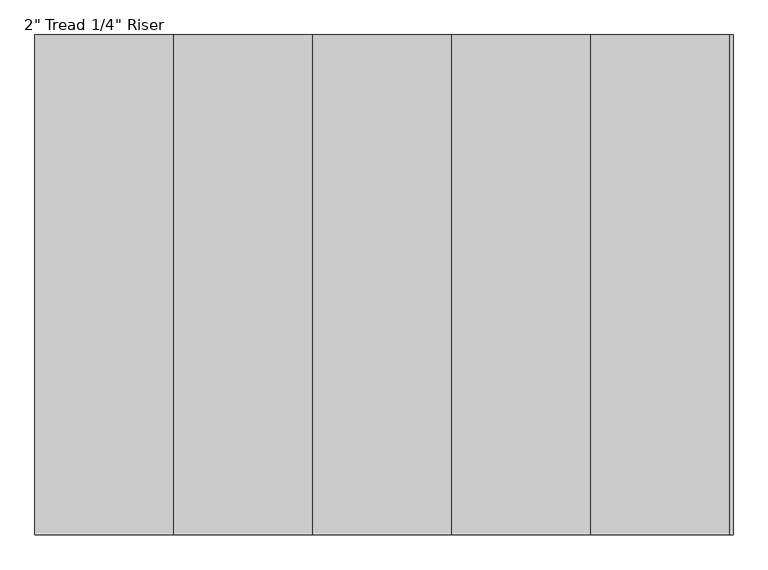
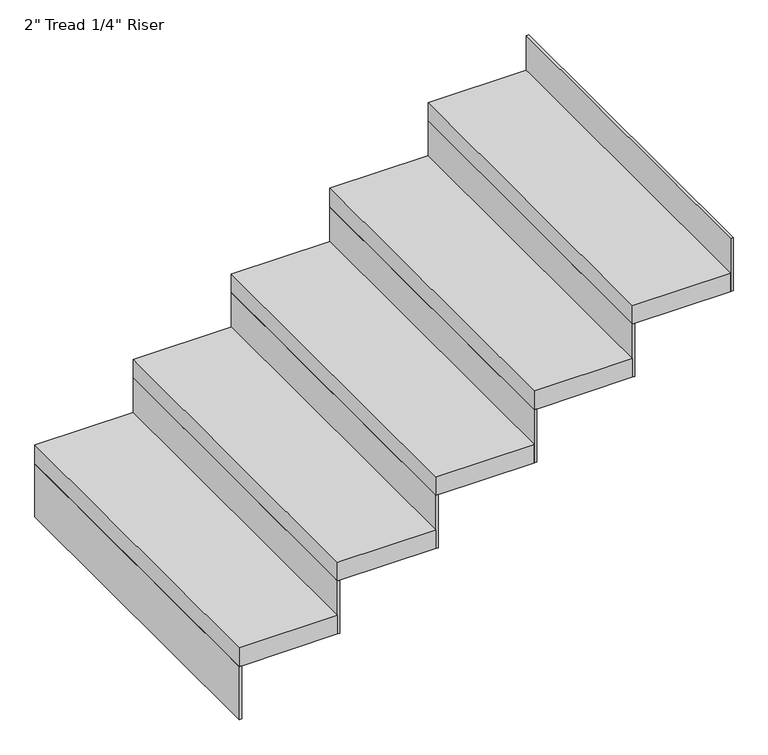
"""IFC4 building model written with IfcOpenShell, lengths in millimetres: stair flight geometry."""

from ifc_helpers import new_model, si_unit, frame, origin, place, context, project, spatial, polyline, outline, extrude, source, transform, mapped, element, save


def stair_flight_104fc26a(model_context):
    return source(origin(), model_context, "Body", "SweptSolid", [
        extrude(outline(polyline([(138179.3023809, -18868.6990002), (138172.9523809, -18868.6990002), (138172.9523809, -17954.2990002), (138179.3023809, -17954.2990002), (138179.3023809, -18868.6990002)])), frame((0.0, 0.0, 2126.3428571), z_axis=(0.0, 0.0, 1.0), x_axis=(1.0, 0.0, 0.0)), (0.0, 0.0, 1.0), 145.1428571),
        extrude(outline(polyline([(138426.9523809, -17954.2990002), (138426.9523809, -18868.6990002), (138172.9523809, -18868.6990002), (138172.9523809, -17954.2990002), (138426.9523809, -17954.2990002)])), frame((0.0, 0.0, 2271.4857143), z_axis=(0.0, 0.0, 1.0), x_axis=(1.0, 0.0, 0.0)), (0.0, 0.0, 1.0), 50.8),
        extrude(outline(polyline([(138433.3023809, -18868.6990002), (138426.9523809, -18868.6990002), (138426.9523809, -17954.2990002), (138433.3023809, -17954.2990002), (138433.3023809, -18868.6990002)])), frame((0.0, 0.0, 2271.4857143), z_axis=(0.0, 0.0, 1.0), x_axis=(1.0, 0.0, 0.0)), (0.0, 0.0, 1.0), 145.1428571),
        extrude(outline(polyline([(138680.9523809, -17954.2990002), (138680.9523809, -18868.6990002), (138426.9523809, -18868.6990002), (138426.9523809, -17954.2990002), (138680.9523809, -17954.2990002)])), frame((0.0, 0.0, 2416.6285714), z_axis=(0.0, 0.0, 1.0), x_axis=(1.0, 0.0, 0.0)), (0.0, 0.0, 1.0), 50.8),
        extrude(outline(polyline([(138687.3023809, -18868.6990002), (138680.9523809, -18868.6990002), (138680.9523809, -17954.2990002), (138687.3023809, -17954.2990002), (138687.3023809, -18868.6990002)])), frame((0.0, 0.0, 2416.6285714), z_axis=(0.0, 0.0, 1.0), x_axis=(1.0, 0.0, 0.0)), (0.0, 0.0, 1.0), 145.1428571),
        extrude(outline(polyline([(138934.9523809, -17954.2990002), (138934.9523809, -18868.6990002), (138680.9523809, -18868.6990002), (138680.9523809, -17954.2990002), (138934.9523809, -17954.2990002)])), frame((0.0, 0.0, 2561.7714286), z_axis=(0.0, 0.0, 1.0), x_axis=(1.0, 0.0, 0.0)), (0.0, 0.0, 1.0), 50.8),
        extrude(outline(polyline([(138941.3023809, -18868.6990002), (138934.9523809, -18868.6990002), (138934.9523809, -17954.2990002), (138941.3023809, -17954.2990002), (138941.3023809, -18868.6990002)])), frame((0.0, 0.0, 2561.7714286), z_axis=(0.0, 0.0, 1.0), x_axis=(1.0, 0.0, 0.0)), (0.0, 0.0, 1.0), 145.1428571),
        extrude(outline(polyline([(139188.9523809, -17954.2990002), (139188.9523809, -18868.6990002), (138934.9523809, -18868.6990002), (138934.9523809, -17954.2990002), (139188.9523809, -17954.2990002)])), frame((0.0, 0.0, 2706.9142857), z_axis=(0.0, 0.0, 1.0), x_axis=(1.0, 0.0, 0.0)), (0.0, 0.0, 1.0), 50.8),
        extrude(outline(polyline([(139195.3023809, -18868.6990002), (139188.9523809, -18868.6990002), (139188.9523809, -17954.2990002), (139195.3023809, -17954.2990002), (139195.3023809, -18868.6990002)])), frame((0.0, 0.0, 2706.9142857), z_axis=(0.0, 0.0, 1.0), x_axis=(1.0, 0.0, 0.0)), (0.0, 0.0, 1.0), 145.1428571),
        extrude(outline(polyline([(139449.3023809, -18868.6990002), (139442.9523809, -18868.6990002), (139442.9523809, -17954.2990002), (139449.3023809, -17954.2990002), (139449.3023809, -18868.6990002)])), frame((0.0, 0.0, 2852.0571429), z_axis=(0.0, 0.0, 1.0), x_axis=(1.0, 0.0, 0.0)), (0.0, 0.0, 1.0), 145.1428571),
        extrude(outline(polyline([(139442.9523809, -17954.2990002), (139442.9523809, -18868.6990002), (139188.9523809, -18868.6990002), (139188.9523809, -17954.2990002), (139442.9523809, -17954.2990002)])), frame((0.0, 0.0, 2852.0571429), z_axis=(0.0, 0.0, 1.0), x_axis=(1.0, 0.0, 0.0)), (0.0, 0.0, 1.0), 50.8),
    ])


if __name__ == "__main__":
    model = new_model("IFC4")
    model_context = context("Model", 3, world=origin())
    ifc_project = project(units=[si_unit("LENGTHUNIT", "METRE", prefix="MILLI")], contexts=[model_context])
    site = spatial("IfcSite", under=ifc_project)
    building = spatial("IfcBuilding", under=site)
    placement = place(None, origin())
    stair_flight_shape = stair_flight_104fc26a(model_context)
    element("IfcStairFlight", 1, ObjectType="2\" Tread 1/4\" Riser", at=placement, inside=building, context=model_context, shape_type="MappedRepresentation", body=[
        mapped(stair_flight_shape, transform((0.0, 0.0, 0.0), x_axis=(1.0, 0.0, 0.0), y_axis=(0.0, 1.0, 0.0), z_axis=(0.0, 0.0, 1.0))),
    ])
    save(model, "model.ifc")
